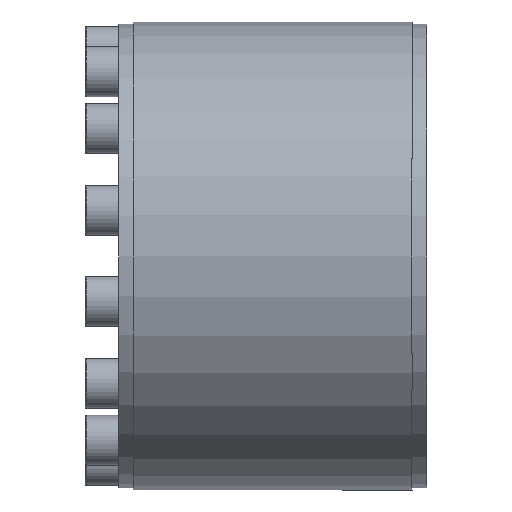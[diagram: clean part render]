
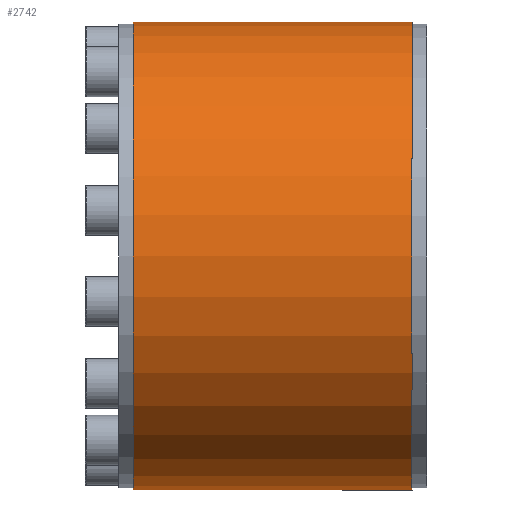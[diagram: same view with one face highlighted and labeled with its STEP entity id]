
A CAD part, left-side view. The second image highlights one B-rep face of the part: STEP entity #2742.
In plain terms, the highlighted cylindrical face has radius 112.5 mm (diameter 225 mm), a partial arc.
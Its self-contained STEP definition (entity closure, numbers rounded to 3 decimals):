
#111 = CIRCLE ( 'NONE', #3219, 112.5 ) ;
#229 = CARTESIAN_POINT ( 'NONE',  ( 0., 0., -112.5 ) ) ;
#355 = VERTEX_POINT ( 'NONE', #3964 ) ;
#384 = LINE ( 'NONE', #229, #4734 ) ;
#551 = CARTESIAN_POINT ( 'NONE',  ( 0., -67., 0. ) ) ;
#630 = DIRECTION ( 'NONE',  ( 0., -1., 0. ) ) ;
#670 = CARTESIAN_POINT ( 'NONE',  ( 0., 0., 112.5 ) ) ;
#672 = EDGE_LOOP ( 'NONE', ( #4587, #696, #4822, #3358 ) ) ;
#688 = VERTEX_POINT ( 'NONE', #2635 ) ;
#696 = ORIENTED_EDGE ( 'NONE', *, *, #5144, .T. ) ;
#928 = DIRECTION ( 'NONE',  ( 0., 0., -1. ) ) ;
#961 = CYLINDRICAL_SURFACE ( 'NONE', #1919, 112.5 ) ;
#1385 = CARTESIAN_POINT ( 'NONE',  ( 0., 67., -112.5 ) ) ;
#1844 = DIRECTION ( 'NONE',  ( 0., -1., 0. ) ) ;
#1918 = DIRECTION ( 'NONE',  ( 0., -1., 0. ) ) ;
#1919 = AXIS2_PLACEMENT_3D ( 'NONE', #4702, #1918, #3478 ) ;
#1966 = EDGE_CURVE ( 'NONE', #3669, #355, #4204, .T. ) ;
#2143 = AXIS2_PLACEMENT_3D ( 'NONE', #551, #4865, #928 ) ;
#2270 = VECTOR ( 'NONE', #3441, 1000. ) ;
#2635 = CARTESIAN_POINT ( 'NONE',  ( 0., 67., 112.5 ) ) ;
#2656 = DIRECTION ( 'NONE',  ( 0., 0., -1. ) ) ;
#2726 = EDGE_CURVE ( 'NONE', #688, #3669, #4807, .T. ) ;
#2742 = ADVANCED_FACE ( 'NONE', ( #3087 ), #961, .T. ) ;
#3087 = FACE_OUTER_BOUND ( 'NONE', #672, .T. ) ;
#3219 = AXIS2_PLACEMENT_3D ( 'NONE', #5038, #1844, #2656 ) ;
#3358 = ORIENTED_EDGE ( 'NONE', *, *, #1966, .F. ) ;
#3441 = DIRECTION ( 'NONE',  ( 0., -1., 0. ) ) ;
#3478 = DIRECTION ( 'NONE',  ( 0., 0., -1. ) ) ;
#3669 = VERTEX_POINT ( 'NONE', #3934 ) ;
#3934 = CARTESIAN_POINT ( 'NONE',  ( 0., -67., 112.5 ) ) ;
#3964 = CARTESIAN_POINT ( 'NONE',  ( 0., -67., -112.5 ) ) ;
#4204 = CIRCLE ( 'NONE', #2143, 112.5 ) ;
#4509 = VERTEX_POINT ( 'NONE', #1385 ) ;
#4587 = ORIENTED_EDGE ( 'NONE', *, *, #2726, .F. ) ;
#4702 = CARTESIAN_POINT ( 'NONE',  ( 0., 0., 0. ) ) ;
#4711 = EDGE_CURVE ( 'NONE', #4509, #355, #384, .T. ) ;
#4734 = VECTOR ( 'NONE', #630, 1000. ) ;
#4807 = LINE ( 'NONE', #670, #2270 ) ;
#4822 = ORIENTED_EDGE ( 'NONE', *, *, #4711, .T. ) ;
#4865 = DIRECTION ( 'NONE',  ( 0., -1., 0. ) ) ;
#5038 = CARTESIAN_POINT ( 'NONE',  ( 0., 67., 0. ) ) ;
#5144 = EDGE_CURVE ( 'NONE', #688, #4509, #111, .T. ) ;
